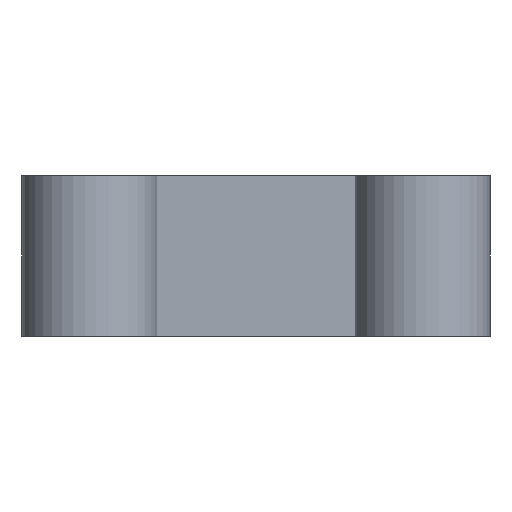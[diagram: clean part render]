
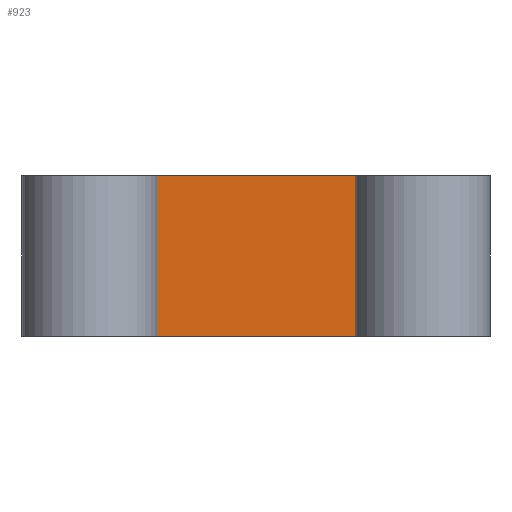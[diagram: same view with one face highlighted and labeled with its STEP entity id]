
A CAD part, left-side view. The second image highlights one B-rep face of the part: STEP entity #923.
In plain terms, the highlighted planar face has unit normal (-1, 0, 0).
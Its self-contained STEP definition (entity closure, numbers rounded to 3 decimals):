
#32 = PLANE('',#33);
#33 = AXIS2_PLACEMENT_3D('',#34,#35,#36);
#34 = CARTESIAN_POINT('',(126.,53.35,9.5));
#35 = DIRECTION('',(0.,0.,-1.));
#36 = DIRECTION('',(1.,0.,0.));
#57 = VERTEX_POINT('',#58);
#58 = CARTESIAN_POINT('',(126.,17.391,9.5));
#77 = CYLINDRICAL_SURFACE('',#78,4.);
#78 = AXIS2_PLACEMENT_3D('',#79,#80,#81);
#79 = CARTESIAN_POINT('',(123.8,14.05,9.5));
#80 = DIRECTION('',(0.,0.,1.));
#81 = DIRECTION('',(1.,0.,-0.));
#89 = EDGE_CURVE('',#57,#90,#92,.T.);
#90 = VERTEX_POINT('',#91);
#91 = CARTESIAN_POINT('',(126.,30.409,9.5));
#92 = SURFACE_CURVE('',#93,(#97,#104),.PCURVE_S1.);
#93 = LINE('',#94,#95);
#94 = CARTESIAN_POINT('',(126.,11.55,9.5));
#95 = VECTOR('',#96,1.);
#96 = DIRECTION('',(0.,1.,0.));
#97 = PCURVE('',#32,#98);
#98 = DEFINITIONAL_REPRESENTATION('',(#99),#103);
#99 = LINE('',#100,#101);
#100 = CARTESIAN_POINT('',(0.,41.8));
#101 = VECTOR('',#102,1.);
#102 = DIRECTION('',(0.,-1.));
#103 = ( GEOMETRIC_REPRESENTATION_CONTEXT(2) 
PARAMETRIC_REPRESENTATION_CONTEXT() REPRESENTATION_CONTEXT('2D SPACE',''
  ) );
#104 = PCURVE('',#105,#110);
#105 = PLANE('',#106);
#106 = AXIS2_PLACEMENT_3D('',#107,#108,#109);
#107 = CARTESIAN_POINT('',(126.,11.55,9.5));
#108 = DIRECTION('',(1.,0.,-0.));
#109 = DIRECTION('',(0.,0.,1.));
#110 = DEFINITIONAL_REPRESENTATION('',(#111),#115);
#111 = LINE('',#112,#113);
#112 = CARTESIAN_POINT('',(0.,0.));
#113 = VECTOR('',#114,1.);
#114 = DIRECTION('',(0.,-1.));
#115 = ( GEOMETRIC_REPRESENTATION_CONTEXT(2) 
PARAMETRIC_REPRESENTATION_CONTEXT() REPRESENTATION_CONTEXT('2D SPACE',''
  ) );
#138 = CYLINDRICAL_SURFACE('',#139,4.);
#139 = AXIS2_PLACEMENT_3D('',#140,#141,#142);
#140 = CARTESIAN_POINT('',(123.8,33.75,9.5));
#141 = DIRECTION('',(0.,0.,1.));
#142 = DIRECTION('',(1.,0.,-0.));
#787 = PLANE('',#788);
#788 = AXIS2_PLACEMENT_3D('',#789,#790,#791);
#789 = CARTESIAN_POINT('',(178.6,14.05,19.));
#790 = DIRECTION('',(0.,0.,1.));
#791 = DIRECTION('',(1.,0.,-0.));
#824 = VERTEX_POINT('',#825);
#825 = CARTESIAN_POINT('',(126.,17.391,19.));
#847 = EDGE_CURVE('',#57,#824,#848,.T.);
#848 = SURFACE_CURVE('',#849,(#853,#860),.PCURVE_S1.);
#849 = LINE('',#850,#851);
#850 = CARTESIAN_POINT('',(126.,17.391,9.5));
#851 = VECTOR('',#852,1.);
#852 = DIRECTION('',(0.,0.,1.));
#853 = PCURVE('',#77,#854);
#854 = DEFINITIONAL_REPRESENTATION('',(#855),#859);
#855 = LINE('',#856,#857);
#856 = CARTESIAN_POINT('',(0.988,0.));
#857 = VECTOR('',#858,1.);
#858 = DIRECTION('',(0.,1.));
#859 = ( GEOMETRIC_REPRESENTATION_CONTEXT(2) 
PARAMETRIC_REPRESENTATION_CONTEXT() REPRESENTATION_CONTEXT('2D SPACE',''
  ) );
#860 = PCURVE('',#105,#861);
#861 = DEFINITIONAL_REPRESENTATION('',(#862),#866);
#862 = LINE('',#863,#864);
#863 = CARTESIAN_POINT('',(0.,-5.841));
#864 = VECTOR('',#865,1.);
#865 = DIRECTION('',(1.,0.));
#866 = ( GEOMETRIC_REPRESENTATION_CONTEXT(2) 
PARAMETRIC_REPRESENTATION_CONTEXT() REPRESENTATION_CONTEXT('2D SPACE',''
  ) );
#923 = ADVANCED_FACE('',(#924),#105,.F.);
#924 = FACE_BOUND('',#925,.F.);
#925 = EDGE_LOOP('',(#926,#949,#970,#971));
#926 = ORIENTED_EDGE('',*,*,#927,.T.);
#927 = EDGE_CURVE('',#90,#928,#930,.T.);
#928 = VERTEX_POINT('',#929);
#929 = CARTESIAN_POINT('',(126.,30.409,19.));
#930 = SURFACE_CURVE('',#931,(#935,#942),.PCURVE_S1.);
#931 = LINE('',#932,#933);
#932 = CARTESIAN_POINT('',(126.,30.409,9.5));
#933 = VECTOR('',#934,1.);
#934 = DIRECTION('',(0.,0.,1.));
#935 = PCURVE('',#105,#936);
#936 = DEFINITIONAL_REPRESENTATION('',(#937),#941);
#937 = LINE('',#938,#939);
#938 = CARTESIAN_POINT('',(0.,-18.859));
#939 = VECTOR('',#940,1.);
#940 = DIRECTION('',(1.,0.));
#941 = ( GEOMETRIC_REPRESENTATION_CONTEXT(2) 
PARAMETRIC_REPRESENTATION_CONTEXT() REPRESENTATION_CONTEXT('2D SPACE',''
  ) );
#942 = PCURVE('',#138,#943);
#943 = DEFINITIONAL_REPRESENTATION('',(#944),#948);
#944 = LINE('',#945,#946);
#945 = CARTESIAN_POINT('',(5.295,0.));
#946 = VECTOR('',#947,1.);
#947 = DIRECTION('',(0.,1.));
#948 = ( GEOMETRIC_REPRESENTATION_CONTEXT(2) 
PARAMETRIC_REPRESENTATION_CONTEXT() REPRESENTATION_CONTEXT('2D SPACE',''
  ) );
#949 = ORIENTED_EDGE('',*,*,#950,.T.);
#950 = EDGE_CURVE('',#928,#824,#951,.T.);
#951 = SURFACE_CURVE('',#952,(#956,#963),.PCURVE_S1.);
#952 = LINE('',#953,#954);
#953 = CARTESIAN_POINT('',(126.,36.25,19.));
#954 = VECTOR('',#955,1.);
#955 = DIRECTION('',(0.,-1.,0.));
#956 = PCURVE('',#105,#957);
#957 = DEFINITIONAL_REPRESENTATION('',(#958),#962);
#958 = LINE('',#959,#960);
#959 = CARTESIAN_POINT('',(9.5,-24.7));
#960 = VECTOR('',#961,1.);
#961 = DIRECTION('',(0.,1.));
#962 = ( GEOMETRIC_REPRESENTATION_CONTEXT(2) 
PARAMETRIC_REPRESENTATION_CONTEXT() REPRESENTATION_CONTEXT('2D SPACE',''
  ) );
#963 = PCURVE('',#787,#964);
#964 = DEFINITIONAL_REPRESENTATION('',(#965),#969);
#965 = LINE('',#966,#967);
#966 = CARTESIAN_POINT('',(-52.6,22.2));
#967 = VECTOR('',#968,1.);
#968 = DIRECTION('',(0.,-1.));
#969 = ( GEOMETRIC_REPRESENTATION_CONTEXT(2) 
PARAMETRIC_REPRESENTATION_CONTEXT() REPRESENTATION_CONTEXT('2D SPACE',''
  ) );
#970 = ORIENTED_EDGE('',*,*,#847,.F.);
#971 = ORIENTED_EDGE('',*,*,#89,.T.);
